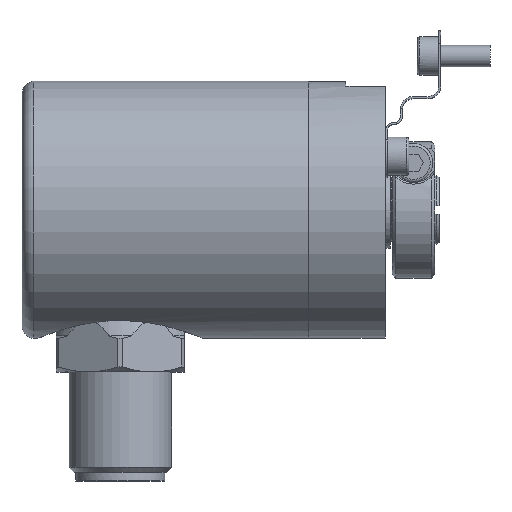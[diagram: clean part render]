
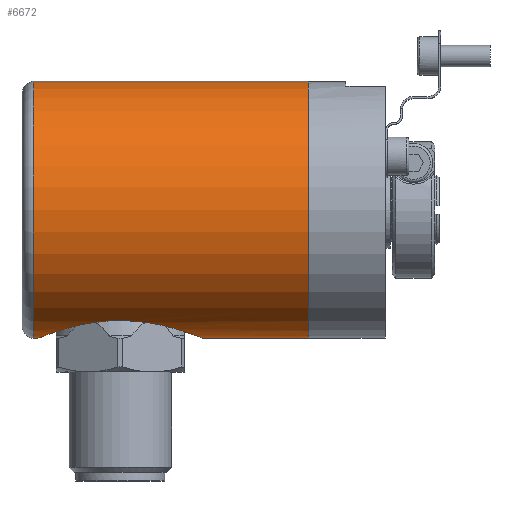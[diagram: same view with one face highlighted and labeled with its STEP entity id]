
A CAD part, top view. The second image highlights one B-rep face of the part: STEP entity #6672.
In plain terms, the highlighted cylindrical face has radius 15.038 mm (diameter 30.077 mm), a full revolution.
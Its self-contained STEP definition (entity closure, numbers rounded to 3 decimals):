
#169=B_SPLINE_CURVE_WITH_KNOTS('',3,(#10146,#10147,#10148,#10149,#10150,
#10151,#10152,#10153,#10154,#10155,#10156),.UNSPECIFIED.,.F.,.F.,(4,1,1,
1,1,1,1,1,4),(0.049,0.052,0.056,0.059,
0.062,0.066,0.069,0.072,
0.075),.UNSPECIFIED.);
#170=B_SPLINE_CURVE_WITH_KNOTS('',3,(#10167,#10168,#10169,#10170,#10171,
#10172,#10173,#10174,#10175,#10176,#10177),.UNSPECIFIED.,.F.,.F.,(4,1,1,
1,1,1,1,1,4),(0.021,0.025,0.028,0.031,
0.035,0.038,0.041,0.044,
0.048),.UNSPECIFIED.);
#367=LINE('',#10161,#637);
#368=LINE('',#10163,#638);
#637=VECTOR('',#8472,1000.);
#638=VECTOR('',#8473,1000.);
#811=CYLINDRICAL_SURFACE('',#7226,15.038);
#1818=ORIENTED_EDGE('',*,*,#2666,.F.);
#1819=ORIENTED_EDGE('',*,*,#2667,.F.);
#1820=ORIENTED_EDGE('',*,*,#2665,.T.);
#1821=ORIENTED_EDGE('',*,*,#2663,.T.);
#1822=ORIENTED_EDGE('',*,*,#2660,.T.);
#1823=ORIENTED_EDGE('',*,*,#2662,.T.);
#2660=EDGE_CURVE('',#3159,#3160,#169,.T.);
#2662=EDGE_CURVE('',#3160,#3161,#367,.F.);
#2663=EDGE_CURVE('',#3162,#3159,#368,.T.);
#2665=EDGE_CURVE('',#3161,#3162,#170,.T.);
#2666=EDGE_CURVE('',#3163,#3163,#3535,.F.);
#2667=EDGE_CURVE('',#3164,#3164,#3536,.F.);
#3159=VERTEX_POINT('',#10157);
#3160=VERTEX_POINT('',#10158);
#3161=VERTEX_POINT('',#10162);
#3162=VERTEX_POINT('',#10164);
#3163=VERTEX_POINT('',#10180);
#3164=VERTEX_POINT('',#10183);
#3535=CIRCLE('',#7225,15.038);
#3536=CIRCLE('',#7227,15.038);
#3857=EDGE_LOOP('',(#1818));
#3858=EDGE_LOOP('',(#1819));
#3859=EDGE_LOOP('',(#1820,#1821,#1822,#1823));
#4224=FACE_BOUND('',#3857,.T.);
#4225=FACE_BOUND('',#3858,.T.);
#4226=FACE_BOUND('',#3859,.T.);
#6672=ADVANCED_FACE('',(#4224,#4225,#4226),#811,.T.);
#7225=AXIS2_PLACEMENT_3D('',#10179,#8480,#8481);
#7226=AXIS2_PLACEMENT_3D('',#10181,#8482,#8483);
#7227=AXIS2_PLACEMENT_3D('',#10182,#8484,#8485);
#8472=DIRECTION('',(-1.,0.,0.));
#8473=DIRECTION('',(-1.,0.,0.));
#8480=DIRECTION('',(1.,0.,0.));
#8481=DIRECTION('',(0.,0.,-1.));
#8482=DIRECTION('',(-1.,0.,0.));
#8483=DIRECTION('',(0.,0.,1.));
#8484=DIRECTION('',(-1.,0.,0.));
#8485=DIRECTION('',(0.,0.,1.));
#10146=CARTESIAN_POINT('',(-31.593,-12.968,-7.614));
#10147=CARTESIAN_POINT('',(-32.692,-13.,-7.561));
#10148=CARTESIAN_POINT('',(-34.877,-13.247,-7.149));
#10149=CARTESIAN_POINT('',(-37.775,-13.978,-5.669));
#10150=CARTESIAN_POINT('',(-40.048,-14.773,-3.29));
#10151=CARTESIAN_POINT('',(-41.037,-15.171,-0.016));
#10152=CARTESIAN_POINT('',(-40.05,-14.774,3.291));
#10153=CARTESIAN_POINT('',(-37.788,-13.981,5.66));
#10154=CARTESIAN_POINT('',(-34.862,-13.244,7.154));
#10155=CARTESIAN_POINT('',(-32.704,-13.,7.56));
#10156=CARTESIAN_POINT('',(-31.593,-12.968,7.614));
#10157=CARTESIAN_POINT('',(-31.593,-12.968,-7.614));
#10158=CARTESIAN_POINT('',(-31.593,-12.968,7.614));
#10161=CARTESIAN_POINT('',(28.883,-12.968,7.614));
#10162=CARTESIAN_POINT('',(-30.407,-12.968,7.614));
#10163=CARTESIAN_POINT('',(28.883,-12.968,-7.614));
#10164=CARTESIAN_POINT('',(-30.407,-12.968,-7.614));
#10167=CARTESIAN_POINT('',(-30.407,-12.968,7.614));
#10168=CARTESIAN_POINT('',(-29.311,-13.,7.561));
#10169=CARTESIAN_POINT('',(-27.128,-13.246,7.151));
#10170=CARTESIAN_POINT('',(-24.227,-13.978,5.67));
#10171=CARTESIAN_POINT('',(-21.958,-14.77,3.299));
#10172=CARTESIAN_POINT('',(-20.962,-15.171,0.023));
#10173=CARTESIAN_POINT('',(-21.947,-14.775,-3.288));
#10174=CARTESIAN_POINT('',(-24.21,-13.982,-5.659));
#10175=CARTESIAN_POINT('',(-27.136,-13.245,-7.154));
#10176=CARTESIAN_POINT('',(-29.298,-13.,-7.56));
#10177=CARTESIAN_POINT('',(-30.407,-12.968,-7.614));
#10179=CARTESIAN_POINT('',(-41.187,0.,0.));
#10180=CARTESIAN_POINT('',(-41.187,0.,-15.038));
#10181=CARTESIAN_POINT('',(28.883,0.,0.));
#10182=CARTESIAN_POINT('',(-9.,0.,0.));
#10183=CARTESIAN_POINT('',(-9.,0.,15.038));
